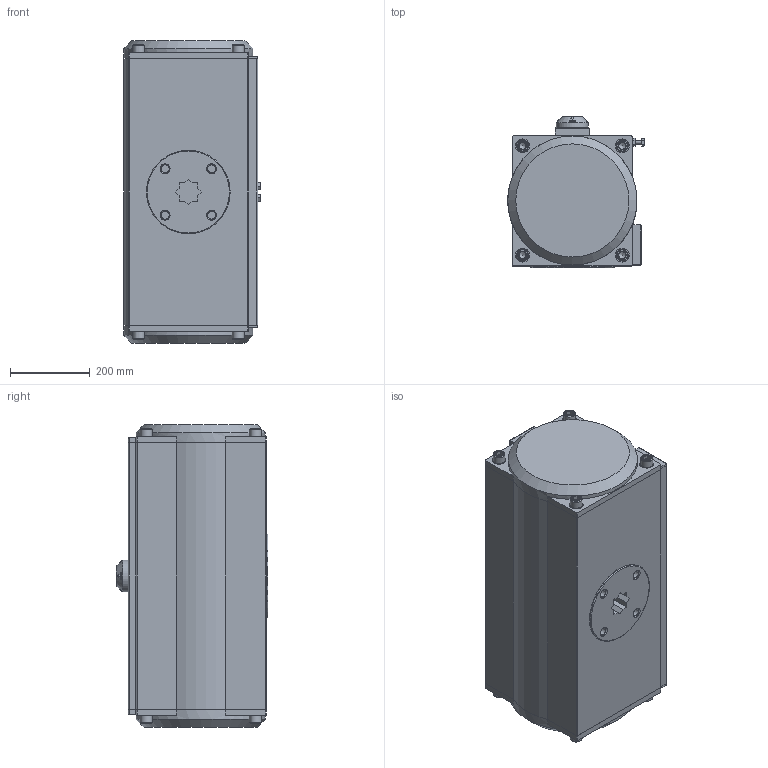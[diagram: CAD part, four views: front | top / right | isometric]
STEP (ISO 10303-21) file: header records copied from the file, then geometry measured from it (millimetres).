
FILE_DESCRIPTION(('STEP AP242'), '1');
FILE_NAME('PA-DA-300 砅槻斁瀔魤鍱 DN.ru', '2026-04-18T00:10:50', ('DN.ru'), (''), 'C3D Converter', 'C3D Toolkit', '');
FILE_SCHEMA(('AP242_MANAGED_MODEL_BASED_3D_ENGINEERING_MIM_LF { 1 0 10303 442 1 1 4 }'));
Length unit declared in the file: millimetre
Products named in the file (1): PA-DA-300
Bounding box: 342.4 x 380 x 760 mm (x, y, z)
Volume: 77347121.3 mm3; surface area: 1487008.9 mm2
Topology: 1 solids, 4 shells, 1002 faces, 2620 edges, 1707 vertices
Faces by surface type: plane 448, extrusion 347, cylinder 108, cone 87, torus 12
Full cylindrical faces by diameter (mm): 5 x4, 6 x4, 8 x1, 9.989 x2, 10 x4, 17 x8, 20 x20, 30 x8, 35 x8, 80 x1, 210 x1, 232 x2, 324 x2
Entity records: 59642 total; most frequent: CARTESIAN_POINT 29310, ORIENTED_EDGE 4952, DIRECTION 3378, EDGE_CURVE 2476, VERTEX_POINT 1691, B_SPLINE_CURVE_WITH_KNOTS 1421, VECTOR 1416, EDGE_LOOP 1231
